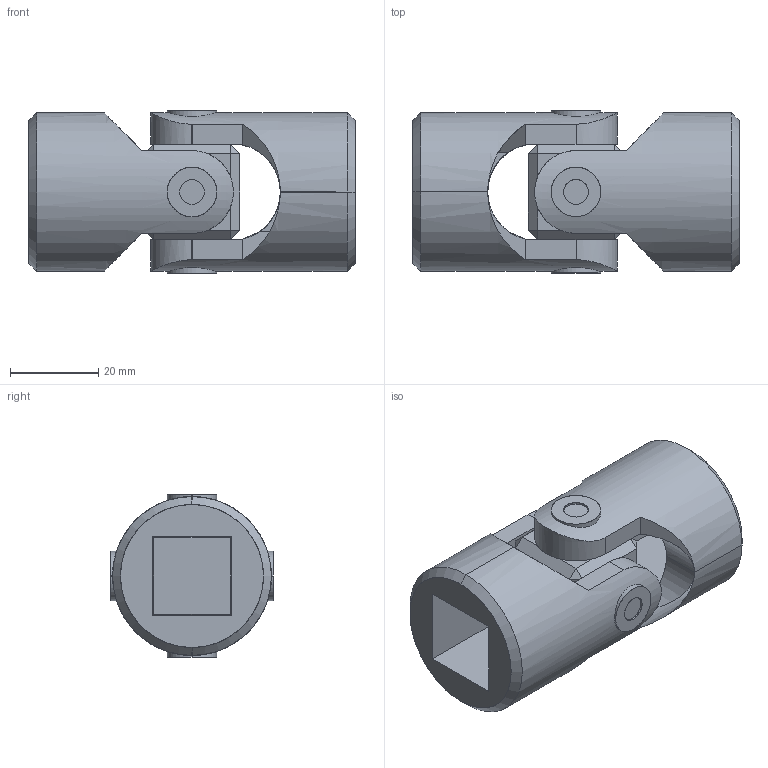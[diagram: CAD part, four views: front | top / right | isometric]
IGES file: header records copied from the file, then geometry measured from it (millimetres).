
Start section: SolidWorks IGES file using analytic representation for surfaces
Global section: file name: C:\Users\IanO\Desktop\R3690_v2\R3690_v2_20231020_IGES\R3690.018-SB.igs; native system: SolidWorks 2019; preprocessor: SolidWorks 2019; author: IanO; date: 231020.153006; units: millimetre
Bounding box: 74 x 36.72 x 36.72 mm (x, y, z)
Surface area: 20540.5 mm2 (no closed solid volume)
Topology: 0 solids, 0 shells, 108 faces, 2116 edges, 2116 vertices
Faces by surface type: bspline 64, revolution 44
